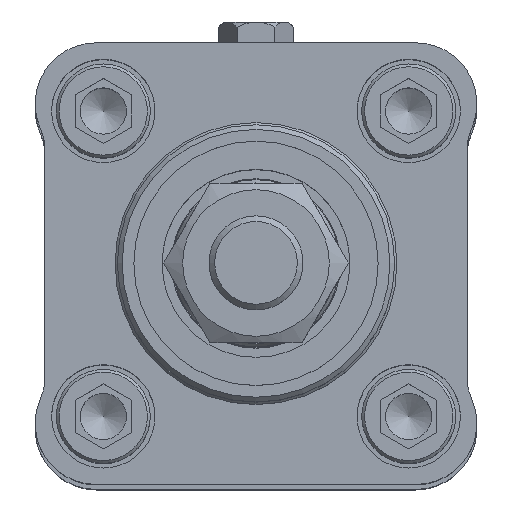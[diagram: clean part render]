
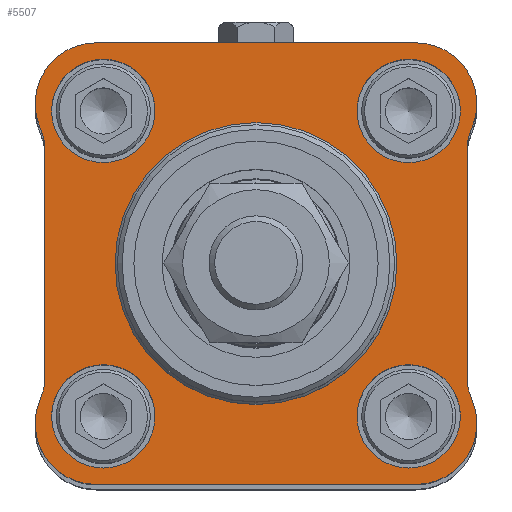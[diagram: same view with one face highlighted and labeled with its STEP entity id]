
A CAD part, top view. The second image highlights one B-rep face of the part: STEP entity #5507.
In plain terms, the highlighted planar face has unit normal (0, 0, 1) as drawn and (-1, 0, 0) by its records, which use the part's own axes.
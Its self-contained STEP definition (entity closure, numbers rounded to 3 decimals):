
#285=LINE('',#8050,#523);
#289=LINE('',#8062,#527);
#293=LINE('',#8074,#531);
#297=LINE('',#8086,#535);
#523=VECTOR('',#6830,1000.);
#527=VECTOR('',#6844,1000.);
#531=VECTOR('',#6858,1000.);
#535=VECTOR('',#6872,1000.);
#679=PLANE('',#5934);
#1332=ORIENTED_EDGE('',*,*,#2002,.T.);
#1333=ORIENTED_EDGE('',*,*,#2003,.T.);
#1334=ORIENTED_EDGE('',*,*,#2004,.T.);
#1335=ORIENTED_EDGE('',*,*,#2005,.T.);
#1336=ORIENTED_EDGE('',*,*,#2006,.T.);
#1337=ORIENTED_EDGE('',*,*,#1979,.T.);
#1338=ORIENTED_EDGE('',*,*,#1982,.F.);
#1339=ORIENTED_EDGE('',*,*,#1984,.T.);
#1340=ORIENTED_EDGE('',*,*,#1986,.F.);
#1341=ORIENTED_EDGE('',*,*,#1988,.F.);
#1342=ORIENTED_EDGE('',*,*,#1990,.F.);
#1343=ORIENTED_EDGE('',*,*,#1992,.T.);
#1344=ORIENTED_EDGE('',*,*,#1994,.F.);
#1345=ORIENTED_EDGE('',*,*,#1996,.T.);
#1346=ORIENTED_EDGE('',*,*,#1998,.F.);
#1347=ORIENTED_EDGE('',*,*,#2000,.F.);
#1348=ORIENTED_EDGE('',*,*,#2001,.F.);
#1979=EDGE_CURVE('',#2394,#2393,#2648,.T.);
#1982=EDGE_CURVE('',#2395,#2393,#285,.T.);
#1984=EDGE_CURVE('',#2395,#2396,#2649,.T.);
#1986=EDGE_CURVE('',#2397,#2396,#2650,.T.);
#1988=EDGE_CURVE('',#2398,#2397,#289,.T.);
#1990=EDGE_CURVE('',#2399,#2398,#2651,.T.);
#1992=EDGE_CURVE('',#2399,#2400,#2652,.T.);
#1994=EDGE_CURVE('',#2401,#2400,#293,.T.);
#1996=EDGE_CURVE('',#2401,#2402,#2653,.T.);
#1998=EDGE_CURVE('',#2403,#2402,#2654,.T.);
#2000=EDGE_CURVE('',#2404,#2403,#297,.T.);
#2001=EDGE_CURVE('',#2394,#2404,#2655,.T.);
#2002=EDGE_CURVE('',#2405,#2405,#2656,.T.);
#2003=EDGE_CURVE('',#2406,#2406,#2657,.T.);
#2004=EDGE_CURVE('',#2407,#2407,#2658,.T.);
#2005=EDGE_CURVE('',#2408,#2408,#2659,.T.);
#2006=EDGE_CURVE('',#2409,#2409,#2660,.T.);
#2393=VERTEX_POINT('',#8043);
#2394=VERTEX_POINT('',#8045);
#2395=VERTEX_POINT('',#8049);
#2396=VERTEX_POINT('',#8053);
#2397=VERTEX_POINT('',#8057);
#2398=VERTEX_POINT('',#8061);
#2399=VERTEX_POINT('',#8065);
#2400=VERTEX_POINT('',#8069);
#2401=VERTEX_POINT('',#8073);
#2402=VERTEX_POINT('',#8077);
#2403=VERTEX_POINT('',#8081);
#2404=VERTEX_POINT('',#8085);
#2405=VERTEX_POINT('',#8091);
#2406=VERTEX_POINT('',#8093);
#2407=VERTEX_POINT('',#8095);
#2408=VERTEX_POINT('',#8097);
#2409=VERTEX_POINT('',#8099);
#2648=CIRCLE('',#5915,4.5);
#2649=CIRCLE('',#5918,4.5);
#2650=CIRCLE('',#5920,6.5);
#2651=CIRCLE('',#5923,6.5);
#2652=CIRCLE('',#5925,4.5);
#2653=CIRCLE('',#5928,4.5);
#2654=CIRCLE('',#5930,6.5);
#2655=CIRCLE('',#5933,6.5);
#2656=CIRCLE('',#5935,15.);
#2657=CIRCLE('',#5936,5.5);
#2658=CIRCLE('',#5937,5.5);
#2659=CIRCLE('',#5938,5.5);
#2660=CIRCLE('',#5939,5.5);
#2966=EDGE_LOOP('',(#1332));
#2967=EDGE_LOOP('',(#1333));
#2968=EDGE_LOOP('',(#1334));
#2969=EDGE_LOOP('',(#1335));
#2970=EDGE_LOOP('',(#1336));
#2971=EDGE_LOOP('',(#1337,#1338,#1339,#1340,#1341,#1342,#1343,#1344,#1345,
#1346,#1347,#1348));
#3398=FACE_BOUND('',#2966,.T.);
#3399=FACE_BOUND('',#2967,.T.);
#3400=FACE_BOUND('',#2968,.T.);
#3401=FACE_BOUND('',#2969,.T.);
#3402=FACE_BOUND('',#2970,.T.);
#3403=FACE_BOUND('',#2971,.T.);
#5507=ADVANCED_FACE('',(#3398,#3399,#3400,#3401,#3402,#3403),#679,.F.);
#5915=AXIS2_PLACEMENT_3D('',#8044,#6824,#6825);
#5918=AXIS2_PLACEMENT_3D('',#8054,#6834,#6835);
#5920=AXIS2_PLACEMENT_3D('',#8058,#6839,#6840);
#5923=AXIS2_PLACEMENT_3D('',#8066,#6848,#6849);
#5925=AXIS2_PLACEMENT_3D('',#8070,#6853,#6854);
#5928=AXIS2_PLACEMENT_3D('',#8078,#6862,#6863);
#5930=AXIS2_PLACEMENT_3D('',#8082,#6867,#6868);
#5933=AXIS2_PLACEMENT_3D('',#8088,#6875,#6876);
#5934=AXIS2_PLACEMENT_3D('',#8089,#6877,#6878);
#5935=AXIS2_PLACEMENT_3D('',#8090,#6879,#6880);
#5936=AXIS2_PLACEMENT_3D('',#8092,#6881,#6882);
#5937=AXIS2_PLACEMENT_3D('',#8094,#6883,#6884);
#5938=AXIS2_PLACEMENT_3D('',#8096,#6885,#6886);
#5939=AXIS2_PLACEMENT_3D('',#8098,#6887,#6888);
#6824=DIRECTION('',(1.,0.,0.));
#6825=DIRECTION('',(0.,0.,-1.));
#6830=DIRECTION('',(0.,-1.,0.));
#6834=DIRECTION('',(1.,0.,0.));
#6835=DIRECTION('',(0.,0.,-1.));
#6839=DIRECTION('',(1.,0.,0.));
#6840=DIRECTION('',(0.,0.,-1.));
#6844=DIRECTION('',(0.,0.,1.));
#6848=DIRECTION('',(1.,0.,0.));
#6849=DIRECTION('',(0.,0.,-1.));
#6853=DIRECTION('',(1.,0.,0.));
#6854=DIRECTION('',(0.,0.,-1.));
#6858=DIRECTION('',(0.,1.,0.));
#6862=DIRECTION('',(1.,0.,0.));
#6863=DIRECTION('',(0.,0.,-1.));
#6867=DIRECTION('',(1.,0.,0.));
#6868=DIRECTION('',(0.,0.,-1.));
#6872=DIRECTION('',(0.,0.,-1.));
#6875=DIRECTION('',(1.,0.,0.));
#6876=DIRECTION('',(0.,0.,-1.));
#6877=DIRECTION('',(1.,0.,0.));
#6878=DIRECTION('',(0.,0.,-1.));
#6879=DIRECTION('',(1.,0.,0.));
#6880=DIRECTION('',(0.,0.,-1.));
#6881=DIRECTION('',(1.,0.,0.));
#6882=DIRECTION('',(0.,0.,-1.));
#6883=DIRECTION('',(1.,0.,0.));
#6884=DIRECTION('',(0.,0.,-1.));
#6885=DIRECTION('',(1.,0.,0.));
#6886=DIRECTION('',(0.,0.,-1.));
#6887=DIRECTION('',(1.,0.,0.));
#6888=DIRECTION('',(0.,0.,-1.));
#8043=CARTESIAN_POINT('',(-30.,-12.417,22.5));
#8044=CARTESIAN_POINT('',(-30.,-12.417,27.));
#8045=CARTESIAN_POINT('',(-30.,-14.292,22.909));
#8049=CARTESIAN_POINT('',(-30.,12.417,22.5));
#8050=CARTESIAN_POINT('',(-30.,12.417,22.5));
#8053=CARTESIAN_POINT('',(-30.,14.292,22.909));
#8054=CARTESIAN_POINT('',(-30.,12.417,27.));
#8057=CARTESIAN_POINT('',(-30.,23.5,17.));
#8058=CARTESIAN_POINT('',(-30.,17.,17.));
#8061=CARTESIAN_POINT('',(-30.,23.5,-17.));
#8062=CARTESIAN_POINT('',(-30.,23.5,-17.));
#8065=CARTESIAN_POINT('',(-30.,14.292,-22.909));
#8066=CARTESIAN_POINT('',(-30.,17.,-17.));
#8069=CARTESIAN_POINT('',(-30.,12.417,-22.5));
#8070=CARTESIAN_POINT('',(-30.,12.417,-27.));
#8073=CARTESIAN_POINT('',(-30.,-12.417,-22.5));
#8074=CARTESIAN_POINT('',(-30.,-12.417,-22.5));
#8077=CARTESIAN_POINT('',(-30.,-14.292,-22.909));
#8078=CARTESIAN_POINT('',(-30.,-12.417,-27.));
#8081=CARTESIAN_POINT('',(-30.,-23.5,-17.));
#8082=CARTESIAN_POINT('',(-30.,-17.,-17.));
#8085=CARTESIAN_POINT('',(-30.,-23.5,17.));
#8086=CARTESIAN_POINT('',(-30.,-23.5,17.));
#8088=CARTESIAN_POINT('',(-30.,-17.,17.));
#8089=CARTESIAN_POINT('',(-30.,-12.417,27.));
#8090=CARTESIAN_POINT('',(-30.,0.,0.));
#8091=CARTESIAN_POINT('',(-30.,0.,-15.));
#8092=CARTESIAN_POINT('',(-30.,16.25,-16.25));
#8093=CARTESIAN_POINT('',(-30.,16.25,-21.75));
#8094=CARTESIAN_POINT('',(-30.,-16.25,-16.25));
#8095=CARTESIAN_POINT('',(-30.,-16.25,-21.75));
#8096=CARTESIAN_POINT('',(-30.,-16.25,16.25));
#8097=CARTESIAN_POINT('',(-30.,-16.25,10.75));
#8098=CARTESIAN_POINT('',(-30.,16.25,16.25));
#8099=CARTESIAN_POINT('',(-30.,16.25,10.75));
